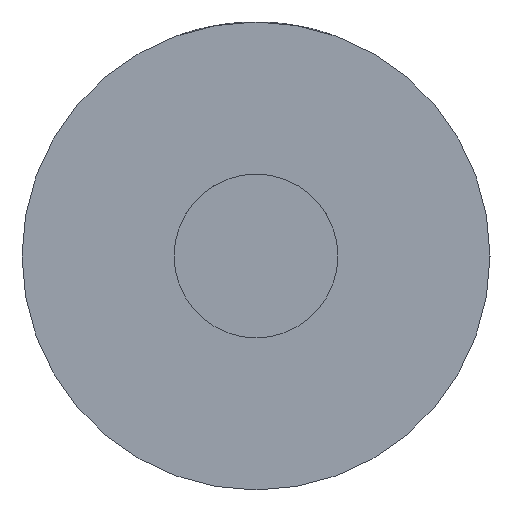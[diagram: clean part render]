
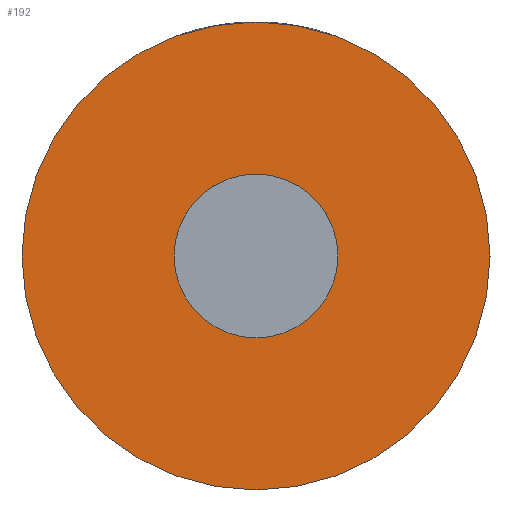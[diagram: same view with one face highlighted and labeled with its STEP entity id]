
A CAD part, front view. The second image highlights one B-rep face of the part: STEP entity #192.
In plain terms, the highlighted planar face has unit normal (0, -1, 0).
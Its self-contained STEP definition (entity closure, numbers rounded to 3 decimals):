
#37 = EDGE_CURVE ( 'NONE', #361, #345, #218, .T. ) ;
#41 = CARTESIAN_POINT ( 'NONE',  ( 0., 0., 0. ) ) ;
#43 = CARTESIAN_POINT ( 'NONE',  ( 3., 0., 0. ) ) ;
#57 = CARTESIAN_POINT ( 'NONE',  ( -1.05, 0., 0. ) ) ;
#64 = ORIENTED_EDGE ( 'NONE', *, *, #128, .T. ) ;
#74 = ORIENTED_EDGE ( 'NONE', *, *, #37, .T. ) ;
#76 = DIRECTION ( 'NONE',  ( 0., -1., 0. ) ) ;
#80 = DIRECTION ( 'NONE',  ( 1., 0., 0. ) ) ;
#101 = CIRCLE ( 'NONE', #307, 3. ) ;
#105 = EDGE_CURVE ( 'NONE', #430, #328, #382, .T. ) ;
#115 = DIRECTION ( 'NONE',  ( 0., -1., 0. ) ) ;
#128 = EDGE_CURVE ( 'NONE', #345, #361, #101, .T. ) ;
#145 = CIRCLE ( 'NONE', #355, 1.05 ) ;
#146 = CARTESIAN_POINT ( 'NONE',  ( -3., 0., 0. ) ) ;
#157 = ORIENTED_EDGE ( 'NONE', *, *, #105, .F. ) ;
#168 = FACE_BOUND ( 'NONE', #491, .T. ) ;
#192 = ADVANCED_FACE ( 'NONE', ( #494, #168 ), #436, .T. ) ;
#206 = DIRECTION ( 'NONE',  ( 0., -1., 0. ) ) ;
#209 = EDGE_CURVE ( 'NONE', #328, #430, #145, .T. ) ;
#214 = DIRECTION ( 'NONE',  ( 1., 0., 0. ) ) ;
#218 = CIRCLE ( 'NONE', #431, 3. ) ;
#247 = DIRECTION ( 'NONE',  ( 1., 0., 0. ) ) ;
#253 = DIRECTION ( 'NONE',  ( 0., -1., 0. ) ) ;
#259 = CARTESIAN_POINT ( 'NONE',  ( 3., 0., 0. ) ) ;
#295 = AXIS2_PLACEMENT_3D ( 'NONE', #43, #253, #321 ) ;
#307 = AXIS2_PLACEMENT_3D ( 'NONE', #41, #206, #247 ) ;
#321 = DIRECTION ( 'NONE',  ( 1., 0., 0. ) ) ;
#328 = VERTEX_POINT ( 'NONE', #57 ) ;
#345 = VERTEX_POINT ( 'NONE', #259 ) ;
#355 = AXIS2_PLACEMENT_3D ( 'NONE', #395, #437, #214 ) ;
#361 = VERTEX_POINT ( 'NONE', #146 ) ;
#382 = CIRCLE ( 'NONE', #461, 1.05 ) ;
#388 = EDGE_LOOP ( 'NONE', ( #64, #74 ) ) ;
#395 = CARTESIAN_POINT ( 'NONE',  ( 0., 0., 0. ) ) ;
#406 = CARTESIAN_POINT ( 'NONE',  ( 1.05, 0., 0. ) ) ;
#428 = DIRECTION ( 'NONE',  ( 1., 0., 0. ) ) ;
#430 = VERTEX_POINT ( 'NONE', #406 ) ;
#431 = AXIS2_PLACEMENT_3D ( 'NONE', #468, #76, #80 ) ;
#436 = PLANE ( 'NONE',  #295 ) ;
#437 = DIRECTION ( 'NONE',  ( 0., -1., 0. ) ) ;
#451 = ORIENTED_EDGE ( 'NONE', *, *, #209, .F. ) ;
#461 = AXIS2_PLACEMENT_3D ( 'NONE', #510, #115, #428 ) ;
#468 = CARTESIAN_POINT ( 'NONE',  ( 0., 0., 0. ) ) ;
#491 = EDGE_LOOP ( 'NONE', ( #157, #451 ) ) ;
#494 = FACE_OUTER_BOUND ( 'NONE', #388, .T. ) ;
#510 = CARTESIAN_POINT ( 'NONE',  ( 0., 0., 0. ) ) ;
